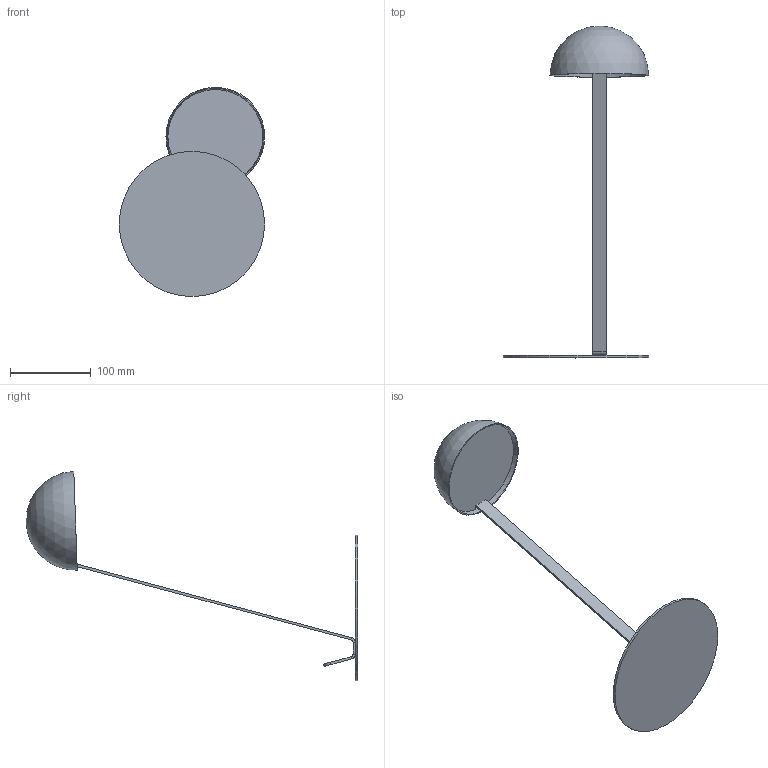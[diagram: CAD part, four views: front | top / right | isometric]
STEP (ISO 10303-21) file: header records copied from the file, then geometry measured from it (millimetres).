
FILE_DESCRIPTION(/* description */ (''),/* implementation_level */ '2;1');
FILE_NAME(/* name */ 'POST PRANDIUM.stp',/* time_stamp */ '2023-08-03T09:23:07+02:00',/* author */ ('n.bisotti'),/* organization */ (''),/* preprocessor_version */ 'ST-DEVELOPER v19.2',/* originating_system */ 'Autodesk Inventor 2023',/* authorisation */ '');
FILE_SCHEMA (('AUTOMOTIVE_DESIGN { 1 0 10303 214 3 1 1 }'));
Length unit declared in the file: centimetre
Products named in the file (1): Parte2
Bounding box: 180.2 x 410.85 x 259.17 mm (x, y, z)
Volume: 159433.2 mm3; surface area: 140078.6 mm2
Topology: 4 solids, 4 shells, 40 faces, 83 edges, 50 vertices
Faces by surface type: plane 25, cylinder 13, sphere 2
Full cylindrical faces by diameter (mm): 180 x1
Entity records: 1140 total; most frequent: DIRECTION 193, CARTESIAN_POINT 172, ORIENTED_EDGE 162, EDGE_CURVE 81, AXIS2_PLACEMENT_3D 71, LINE 51, VECTOR 51, VERTEX_POINT 50
